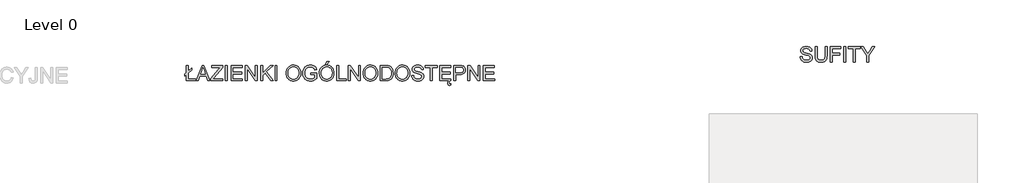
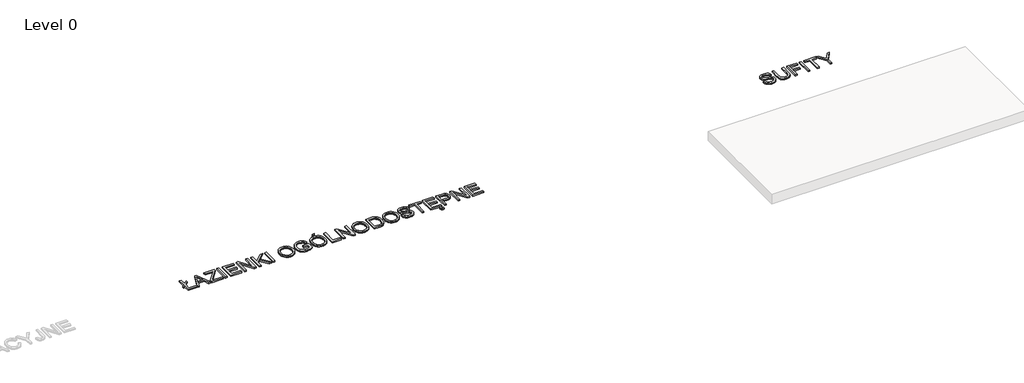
# One storey, part 4 of 4: 2 proxies.
"""IFC4 building model written with IfcOpenShell, lengths in millimetres."""

import ifcopenshell
import ifcopenshell.guid

model = None  # the IFC model being written
_history = None  # IfcOwnerHistory: only IFC2X3 demands one
_inside = {}  # id of a spatial element -> (the spatial element, [elements in it])
_under = {}  # id of a project, library or spatial element -> (it, [spatial elements below it])
_declared = {}  # id of a project -> (the project, [libraries it declares])
_typed = {}  # id of a type object -> (the type object, [elements of that type])
_made_of = {}  # id of a material, layer set ... -> (it, [elements and type objects made of it])


def new_model(schema):
    """Start an empty IFC model of exactly this schema.

    Asked for "IFC4X3", IfcOpenShell would pick the latest addendum, in which some entities
    have other attributes; the version numbers below select the first issue.
    IFC2X3 requires an IfcOwnerHistory on every rooted entity: one is made here for all.
    """
    global model, _history
    if schema == "IFC4X3":
        model = ifcopenshell.file(schema_version=(4, 3, 0, 0))
    else:
        model = ifcopenshell.file(schema=schema)
    _inside.clear()
    _under.clear()
    _declared.clear()
    _typed.clear()
    _made_of.clear()
    _history = None
    if model.schema == "IFC2X3":
        org = make("IfcOrganization", Name="unknown")
        user = make(
            "IfcPersonAndOrganization",
            ThePerson=make("IfcPerson", FamilyName="unknown"),
            TheOrganization=org,
        )
        app = make(
            "IfcApplication",
            ApplicationDeveloper=org,
            Version="unknown",
            ApplicationFullName="unknown",
            ApplicationIdentifier="unknown",
        )
        _history = make(
            "IfcOwnerHistory",
            OwningUser=user,
            OwningApplication=app,
            ChangeAction="ADDED",
            CreationDate=0,
        )
    return model


def make(cls, **values):
    """One entity of the class cls with the attributes given. An attribute that is None is left unset."""
    return model.create_entity(
        cls, **{name: value for name, value in values.items() if value is not None}
    )


def rooted(cls, **values):
    """An entity with a GlobalId (a new one), such as an element, a storey or a relation."""
    return make(cls, GlobalId=ifcopenshell.guid.new(), OwnerHistory=_history, **values)


def si_unit(unit_type, name, prefix=None):
    """IfcSIUnit, for example si_unit("LENGTHUNIT", "METRE", prefix="MILLI")."""
    return make("IfcSIUnit", UnitType=unit_type, Prefix=prefix, Name=name)


def assignment(units):
    """IfcUnitAssignment: the units of a project."""
    return None if units is None else make("IfcUnitAssignment", Units=units)


def point(xyz):
    """IfcCartesianPoint."""
    return None if xyz is None else make("IfcCartesianPoint", Coordinates=xyz)


def direction(xyz):
    """IfcDirection."""
    return None if xyz is None else make("IfcDirection", DirectionRatios=xyz)


def frame(location, z_axis=None, x_axis=None):
    """IfcAxis2Placement3D, a coordinate frame: its origin and axes. An axis left out is left unset."""
    return make(
        "IfcAxis2Placement3D",
        Location=point(location),
        Axis=direction(z_axis),
        RefDirection=direction(x_axis),
    )


def origin():
    """The frame at (0, 0, 0) with its axes left unset."""
    return frame((0.0, 0.0, 0.0))


def origin_with_axes():
    """The frame at (0, 0, 0) with the z axis (0, 0, 1) and the x axis (1, 0, 0) written out."""
    return frame((0.0, 0.0, 0.0), z_axis=(0.0, 0.0, 1.0), x_axis=(1.0, 0.0, 0.0))


def place(relative_to, where):
    """IfcLocalPlacement: puts the frame where relative to a parent placement (None: the world)."""
    return make(
        "IfcLocalPlacement", PlacementRelTo=relative_to, RelativePlacement=where
    )


def context(
    kind, dimensions, precision=None, world=None, true_north=None, identifier=None
):
    """IfcGeometricRepresentationContext, for example the 3D "Model" context."""
    return make(
        "IfcGeometricRepresentationContext",
        ContextIdentifier=identifier,
        ContextType=kind,
        CoordinateSpaceDimension=dimensions,
        Precision=precision,
        WorldCoordinateSystem=world,
        TrueNorth=true_north,
    )


def project(units=None, contexts=None):
    """IfcProject with its units and contexts."""
    return rooted(
        "IfcProject",
        Name="project",
        RepresentationContexts=contexts,
        UnitsInContext=assignment(units),
    )


def spatial(cls, under=None, at=None, **own):
    """A site, building, storey or space (cls), placed at a placement, below another one or the project."""
    s = rooted(cls, ObjectPlacement=at, **own)
    if under is not None:
        _under.setdefault(under.id(), (under, []))[1].append(s)
    return s


def polyline(points):
    """IfcPolyline through the points."""
    return make("IfcPolyline", Points=[point(p) for p in points])


def outline(outer, holes=None, kind="AREA"):
    """IfcArbitraryClosedProfileDef: a profile drawn as a closed curve; with holes, ...WithVoids."""
    if holes is None:
        return make("IfcArbitraryClosedProfileDef", ProfileType=kind, OuterCurve=outer)
    return make(
        "IfcArbitraryProfileDefWithVoids",
        ProfileType=kind,
        OuterCurve=outer,
        InnerCurves=holes,
    )


def extrude(swept, where, along, depth):
    """IfcExtrudedAreaSolid: the profile swept, set in the frame where, extruded along a direction by depth."""
    return make(
        "IfcExtrudedAreaSolid",
        SweptArea=swept,
        Position=where,
        ExtrudedDirection=direction(along),
        Depth=depth,
    )


def shape(context_of_items, identifier, shape_type, items):
    """IfcShapeRepresentation: the items that make up one representation, for example the "Body"."""
    return make(
        "IfcShapeRepresentation",
        ContextOfItems=context_of_items,
        RepresentationIdentifier=identifier,
        RepresentationType=shape_type,
        Items=items,
    )


def made_of(thing, what):
    """Note that an element or type object is made of a material, layer set ...; save() writes the relation."""
    if what is not None:
        _made_of.setdefault(what.id(), (what, []))[1].append(thing)
    return thing


def element(
    cls,
    number,
    at=None,
    inside=None,
    cuts=None,
    type_object=None,
    material=None,
    context=None,
    identifier="Body",
    shape_type=None,
    held_by="IfcProductDefinitionShape",
    body=None,
    shapes=None,
    **own,
):
    """One element of the class cls, such as IfcWall. Its Tag is "e" and its number.

    at: its placement. inside: the storey or other place that contains it. cuts: it is an
    opening in that element (IfcRelVoidsElement). A single representation is given by context,
    identifier, shape_type and body (its items); several are given by shapes. held_by: the class
    of the entity that holds the representations. save() writes the other relations.
    """
    e = rooted(cls, Tag="e%d" % number, ObjectPlacement=at, **own)
    if body is not None:
        shapes = [shape(context, identifier, shape_type, body)]
    if shapes is not None:
        e.Representation = make(held_by, Representations=shapes)
    if inside is not None:
        _inside.setdefault(inside.id(), (inside, []))[1].append(e)
    if cuts is not None:
        rooted(
            "IfcRelVoidsElement", RelatingBuildingElement=cuts, RelatedOpeningElement=e
        )
    if type_object is not None:
        _typed.setdefault(type_object.id(), (type_object, []))[1].append(e)
    return made_of(e, material)


def aggregate(whole, parts):
    """IfcRelAggregates: a whole, such as a stair, and the parts it consists of."""
    return rooted("IfcRelAggregates", RelatingObject=whole, RelatedObjects=parts)


def save(model, path):
    """Write the relations noted so far, then the file.

    IfcRelAggregates (storeys below a building ...), IfcRelContainedInSpatialStructure (elements
    in a storey), IfcRelDefinesByType, IfcRelAssociatesMaterial and IfcRelDeclares: one each for
    every whole, place, type object, material and project.
    """
    for whole, parts in _under.values():
        aggregate(whole, parts)
    for where, things in _inside.values():
        rooted(
            "IfcRelContainedInSpatialStructure",
            RelatedElements=things,
            RelatingStructure=where,
        )
    for kind, things in _typed.values():
        rooted("IfcRelDefinesByType", RelatedObjects=things, RelatingType=kind)
    for what, things in _made_of.values():
        rooted("IfcRelAssociatesMaterial", RelatedObjects=things, RelatingMaterial=what)
    for by, libraries in _declared.values():
        rooted("IfcRelDeclares", RelatingContext=by, RelatedDefinitions=libraries)
    model.write(path)


model = new_model("IFC4")

# Units and contexts
model_context = context("Model", 3, world=origin())
ifc_project = project(units=[si_unit("LENGTHUNIT", "METRE", prefix="MILLI")], contexts=[model_context])

# Site, building, storey
site = spatial("IfcSite", under=ifc_project)
building = spatial("IfcBuilding", under=site)
storey = spatial("IfcBuildingStorey", under=building, Name="Level 0", Elevation=0.0)

# Proxies
placement = place(None, origin())
element("IfcBuildingElementProxy", 1, Name="600mm Arial", ObjectType="600mm Arial", at=placement, inside=storey, context=model_context, shape_type="SweptSolid", body=[
    extrude(outline(polyline([(121845.6074973, 14612.3905691), (121779.6830438, 14557.5025754), (121779.6830438, 14632.844808), (121845.6074973, 14687.7328017), (121845.6074973, 14976.5937443), (121920.94973, 14976.5937443), (121920.94973, 14750.5670465), (122062.2164161, 14868.2892849), (122062.2164161, 14792.9470523), (121920.94973, 14675.2248138), (121920.94973, 14449.198116), (122222.3186604, 14449.198116), (122222.3186604, 14373.8558834), (121845.6074973, 14373.8558834), (121845.6074973, 14612.3905691)])), origin_with_axes(), (0.0, 0.0, 1.0), 50.0),
    extrude(outline(polyline([(122227.4690083, 14373.8558834), (122468.0638332, 14976.5937443), (122532.2224531, 14976.5937443), (122772.817278, 14373.8558834), (122693.2076142, 14373.8558834), (122624.1929519, 14562.2114649), (122375.9461816, 14562.2114649), (122307.0786721, 14373.8558834), (122227.4690083, 14373.8558834)]), holes=[polyline([(122403.6109076, 14637.5536975), (122596.6753787, 14637.5536975), (122542.3759962, 14785.7365652), (122500.1431432, 14901.2515117), (122462.6191797, 14798.6860114), (122403.6109076, 14637.5536975)])]), origin_with_axes(), (0.0, 0.0, 1.0), 50.0),
    extrude(outline(polyline([(122806.2209632, 14373.8558834), (122806.2209632, 14451.9940192), (123114.5060751, 14829.4409462), (123173.0728887, 14901.2515117), (122843.8920795, 14901.2515117), (122843.8920795, 14976.5937443), (123267.6921379, 14976.5937443), (123267.6921379, 14901.2515117), (122930.2707719, 14488.1936075), (122898.4857675, 14449.198116), (123277.109917, 14449.198116), (123277.109917, 14373.8558834), (122806.2209632, 14373.8558834)])), origin_with_axes(), (0.0, 0.0, 1.0), 50.0),
    extrude(outline(polyline([(123371.2877077, 14373.8558834), (123371.2877077, 14976.5937443), (123446.6299404, 14976.5937443), (123446.6299404, 14373.8558834), (123371.2877077, 14373.8558834)])), origin_with_axes(), (0.0, 0.0, 1.0), 50.0),
    extrude(outline(polyline([(123597.3144056, 14373.8558834), (123597.3144056, 14976.5937443), (124030.5322431, 14976.5937443), (124030.5322431, 14901.2515117), (123672.6566382, 14901.2515117), (123672.6566382, 14722.3137092), (124011.6966849, 14722.3137092), (124011.6966849, 14646.9714766), (123672.6566382, 14646.9714766), (123672.6566382, 14449.198116), (124039.9500222, 14449.198116), (124039.9500222, 14373.8558834), (123597.3144056, 14373.8558834)])), origin_with_axes(), (0.0, 0.0, 1.0), 50.0),
    extrude(outline(polyline([(124152.9633711, 14373.8558834), (124152.9633711, 14976.5937443), (124233.6031044, 14976.5937443), (124548.5100923, 14499.0829146), (124548.5100923, 14976.5937443), (124623.8523249, 14976.5937443), (124623.8523249, 14373.8558834), (124543.2125916, 14373.8558834), (124228.3056037, 14851.5138659), (124228.3056037, 14373.8558834), (124152.9633711, 14373.8558834)])), origin_with_axes(), (0.0, 0.0, 1.0), 50.0),
    extrude(outline(polyline([(124755.701232, 14373.8558834), (124755.701232, 14976.5937443), (124831.0434646, 14976.5937443), (124831.0434646, 14681.5523842), (125140.0643406, 14976.5937443), (125245.425744, 14976.5937443), (124985.995361, 14728.7884323), (125254.8435231, 14373.8558834), (125162.7258715, 14373.8558834), (124932.5788953, 14677.8735642), (124831.0434646, 14581.0470231), (124831.0434646, 14373.8558834), (124755.701232, 14373.8558834)])), origin_with_axes(), (0.0, 0.0, 1.0), 50.0),
    extrude(outline(polyline([(125320.7679766, 14373.8558834), (125320.7679766, 14976.5937443), (125396.1102092, 14976.5937443), (125396.1102092, 14373.8558834), (125320.7679766, 14373.8558834)])), origin_with_axes(), (0.0, 0.0, 1.0), 50.0),
    extrude(outline(polyline([(125753.9858141, 14667.2785627), (125759.0074033, 14737.9762852), (125774.072171, 14800.5622096), (125799.1801172, 14855.036336), (125815.5002822, 14879.231475), (125834.3312419, 14901.3986645), (125877.4194205, 14938.4167902), (125926.3385288, 14964.8583086), (125981.0885668, 14980.7232197), (126041.6695343, 14986.0115234), (126082.2193273, 14983.5283199), (126120.7273751, 14976.0787095), (126157.1936779, 14963.6626922), (126191.6182356, 14946.2802679), (126223.035358, 14924.4556685), (126250.4793548, 14898.7131259), (126273.9502261, 14869.0526401), (126293.4479718, 14835.4742109), (126308.7702569, 14798.7411937), (126319.7147463, 14759.6169435), (126326.2814399, 14718.1014604), (126328.4703378, 14674.1947443), (126326.1664768, 14629.708614), (126319.2548938, 14587.6321108), (126307.7355888, 14547.9652347), (126291.6085619, 14510.7079856), (126271.2554905, 14476.8444479), (126247.0580522, 14447.358706), (126219.0162472, 14422.2507599), (126187.1300752, 14401.5206094), (126152.6549338, 14385.2970134), (126116.84622, 14373.7087306), (126079.7039341, 14366.7557609), (126041.2280759, 14364.4381043), (125999.9701102, 14366.9994827), (125960.9562246, 14374.6836179), (125924.1864192, 14387.4905098), (125889.6606939, 14405.4201586), (125858.2803597, 14427.7781868), (125830.9467275, 14453.8702173), (125807.6597972, 14483.6962501), (125788.4195689, 14517.2562851), (125773.3548012, 14553.2029546), (125762.5942528, 14590.1888907), (125756.1379238, 14628.2140934), (125753.9858141, 14667.2785627)]), holes=[polyline([(125829.3280467, 14666.5427988), (125833.0942386, 14616.5936209), (125844.3928144, 14572.2546434), (125863.223774, 14533.5258664), (125889.5871175, 14500.4072897), (125921.6342378, 14473.8829979), (125957.5165279, 14454.9370751), (125997.2339878, 14443.5695215), (126040.7866175, 14439.7803369), (126085.0842083, 14443.6063097), (126125.2707177, 14455.0842279), (126161.3461459, 14474.2140917), (126193.3104927, 14500.9959009), (126219.4806982, 14534.8134533), (126238.1737021, 14575.0505466), (126249.3895044, 14621.7071806), (126253.1281052, 14674.7833555), (126251.5278185, 14709.2630954), (126246.7269584, 14741.4803612), (126238.7255251, 14771.4351526), (126227.5235183, 14799.1274698), (126213.2450984, 14824.1940293), (126196.0144254, 14846.2715475), (126175.8314995, 14865.3600245), (126152.6963205, 14881.4594603), (126127.3262584, 14894.2387611), (126100.4386831, 14903.3668332), (126072.0335945, 14908.8436764), (126042.1109927, 14910.6692908), (126000.0712777, 14907.1514192), (125961.0665892, 14896.5978044), (125925.0969271, 14879.0084465), (125892.1622915, 14854.3833455), (125864.6723094, 14821.5360819), (125845.0366079, 14779.2802362), (125833.255187, 14727.6158085), (125829.3280467, 14666.5427988)])]), origin_with_axes(), (0.0, 0.0, 1.0), 50.0),
    extrude(outline(polyline([(126714.5992799, 14609.3003603), (126714.5992799, 14684.6425929), (126959.4615359, 14684.6425929), (126959.4615359, 14459.3516591), (126899.9566232, 14417.9649346), (126838.5755123, 14388.2768576), (126775.465356, 14370.3977926), (126710.7733072, 14364.4381043), (126667.496589, 14366.8063447), (126626.2524188, 14373.9110657), (126587.0407966, 14385.7522674), (126549.8617225, 14402.3299498), (126515.9154114, 14423.3957926), (126486.4020783, 14448.7014753), (126461.3217233, 14478.2469981), (126440.6743463, 14512.0323608), (126424.5473193, 14548.9769102), (126413.0280144, 14587.9999928), (126406.1164314, 14629.1016087), (126403.8125704, 14672.2817579), (126406.1072343, 14715.4665056), (126412.9912262, 14757.1705283), (126424.4645459, 14797.3938259), (126440.5271935, 14836.1363985), (126460.8940605, 14871.6967919), (126485.2800382, 14902.3735518), (126513.6851268, 14928.1666782), (126546.1093261, 14949.0761711), (126581.849062, 14965.2353877), (126620.2007599, 14976.7776853), (126661.1644201, 14983.7030639), (126704.7400424, 14986.0115234), (126766.801735, 14980.6588403), (126822.6094337, 14964.6007913), (126847.5288403, 14952.8469615), (126869.6063586, 14938.9962044), (126888.8419884, 14923.0485199), (126905.2357298, 14905.003908), (126931.5944748, 14860.9868273), (126950.7795208, 14805.3078873), (126881.3234001, 14785.7365652), (126865.817174, 14825.4494266), (126846.9632218, 14855.4134151), (126822.0208225, 14878.0013696), (126788.2492553, 14895.586129), (126747.984571, 14906.8985003), (126703.5628201, 14910.6692908), (126651.5627, 14906.6041947), (126607.1041609, 14894.4089066), (126570.3527496, 14875.6101366), (126541.474013, 14851.7345951), (126519.3091228, 14824.0146868), (126502.6992507, 14793.6828163), (126485.0409149, 14736.8082598), (126479.154803, 14675.3719666), (126480.9252351, 14637.7514341), (126486.2365314, 14603.3222779), (126495.0886919, 14572.084498), (126507.4817166, 14544.0380944), (126523.2546572, 14519.2888331), (126542.2465652, 14497.9424804), (126564.4574406, 14479.9990361), (126589.8872835, 14465.4585002), (126617.345076, 14454.2243038), (126645.6397999, 14446.1998777), (126674.7714554, 14441.3852221), (126704.7400424, 14439.7803369), (126756.9241035, 14444.6179852), (126807.8205775, 14459.1309299), (126852.0215992, 14479.1253163), (126884.1193033, 14500.4072897), (126884.1193033, 14609.3003603), (126714.5992799, 14609.3003603)])), origin_with_axes(), (0.0, 0.0, 1.0), 50.0),
    extrude(outline(polyline([(127053.6393267, 14667.2785627), (127058.6609159, 14737.9762852), (127073.7256836, 14800.5622096), (127098.8336298, 14855.036336), (127115.1537948, 14879.231475), (127133.9847544, 14901.3986645), (127177.0729331, 14938.4167902), (127225.9920414, 14964.8583086), (127280.7420793, 14980.7232197), (127341.3230469, 14986.0115234), (127381.8728398, 14983.5283199), (127420.3808877, 14976.0787095), (127456.8471904, 14963.6626922), (127491.2717481, 14946.2802679), (127522.6888705, 14924.4556685), (127550.1328674, 14898.7131259), (127573.6037387, 14869.0526401), (127593.1014844, 14835.4742109), (127608.4237695, 14798.7411937), (127619.3682589, 14759.6169435), (127625.9349525, 14718.1014604), (127628.1238503, 14674.1947443), (127625.8199893, 14629.708614), (127618.9084064, 14587.6321108), (127607.3891014, 14547.9652347), (127591.2620744, 14510.7079856), (127570.909003, 14476.8444479), (127546.7115648, 14447.358706), (127518.6697597, 14422.2507599), (127486.7835878, 14401.5206094), (127452.3084463, 14385.2970134), (127416.4997326, 14373.7087306), (127379.3574467, 14366.7557609), (127340.8815885, 14364.4381043), (127299.6236227, 14366.9994827), (127260.6097372, 14374.6836179), (127223.8399317, 14387.4905098), (127189.3142065, 14405.4201586), (127157.9338723, 14427.7781868), (127130.6002401, 14453.8702173), (127107.3133098, 14483.6962501), (127088.0730814, 14517.2562851), (127073.0083137, 14553.2029546), (127062.2477654, 14590.1888907), (127055.7914363, 14628.2140934), (127053.6393267, 14667.2785627)]), holes=[polyline([(127128.9815593, 14666.5427988), (127132.7477512, 14616.5936209), (127144.046327, 14572.2546434), (127162.8772866, 14533.5258664), (127189.2406301, 14500.4072897), (127221.2877504, 14473.8829979), (127257.1700405, 14454.9370751), (127296.8875004, 14443.5695215), (127340.4401301, 14439.7803369), (127384.7377209, 14443.6063097), (127424.9242303, 14455.0842279), (127460.9996585, 14474.2140917), (127492.9640053, 14500.9959009), (127519.1342107, 14534.8134533), (127537.8272146, 14575.0505466), (127549.0430169, 14621.7071806), (127552.7816177, 14674.7833555), (127551.181331, 14709.2630954), (127546.380471, 14741.4803612), (127538.3790376, 14771.4351526), (127527.1770309, 14799.1274698), (127512.8986109, 14824.1940293), (127495.667938, 14846.2715475), (127475.485012, 14865.3600245), (127452.349833, 14881.4594603), (127426.9797709, 14894.2387611), (127400.0921956, 14903.3668332), (127371.6871071, 14908.8436764), (127341.7645053, 14910.6692908), (127299.7247903, 14907.1514192), (127260.7201018, 14896.5978044), (127224.7504397, 14879.0084465), (127191.8158041, 14854.3833455), (127164.325822, 14821.5360819), (127144.6901205, 14779.2802362), (127132.9086996, 14727.6158085), (127128.9815593, 14666.5427988)])]), origin_with_axes(), (0.0, 0.0, 1.0), 50.0),
    extrude(outline(polyline([(127289.0838036, 15014.2648606), (127345.590478, 15127.2782095), (127439.7682688, 15127.2782095), (127345.590478, 15014.2648606), (127289.0838036, 15014.2648606)])), origin_with_axes(), (0.0, 0.0, 1.0), 50.0),
    extrude(outline(polyline([(127731.7194202, 14373.8558834), (127731.7194202, 14976.5937443), (127807.0616528, 14976.5937443), (127807.0616528, 14449.198116), (128108.4305832, 14449.198116), (128108.4305832, 14373.8558834), (127731.7194202, 14373.8558834)])), origin_with_axes(), (0.0, 0.0, 1.0), 50.0),
    extrude(outline(polyline([(128193.1905949, 14373.8558834), (128193.1905949, 14976.5937443), (128273.8303283, 14976.5937443), (128588.7373161, 14499.0829146), (128588.7373161, 14976.5937443), (128664.0795488, 14976.5937443), (128664.0795488, 14373.8558834), (128583.4398154, 14373.8558834), (128268.5328275, 14851.5138659), (128268.5328275, 14373.8558834), (128193.1905949, 14373.8558834)])), origin_with_axes(), (0.0, 0.0, 1.0), 50.0),
    extrude(outline(polyline([(128767.6751186, 14667.2785627), (128772.6967078, 14737.9762852), (128787.7614755, 14800.5622096), (128812.8694217, 14855.036336), (128829.1895867, 14879.231475), (128848.0205463, 14901.3986645), (128891.108725, 14938.4167902), (128940.0278333, 14964.8583086), (128994.7778713, 14980.7232197), (129055.3588388, 14986.0115234), (129095.9086317, 14983.5283199), (129134.4166796, 14976.0787095), (129170.8829824, 14963.6626922), (129205.3075401, 14946.2802679), (129236.7246624, 14924.4556685), (129264.1686593, 14898.7131259), (129287.6395306, 14869.0526401), (129307.1372763, 14835.4742109), (129322.4595614, 14798.7411937), (129333.4040508, 14759.6169435), (129339.9707444, 14718.1014604), (129342.1596423, 14674.1947443), (129339.8557813, 14629.708614), (129332.9441983, 14587.6321108), (129321.4248933, 14547.9652347), (129305.2978663, 14510.7079856), (129284.944795, 14476.8444479), (129260.7473567, 14447.358706), (129232.7055516, 14422.2507599), (129200.8193797, 14401.5206094), (129166.3442382, 14385.2970134), (129130.5355245, 14373.7087306), (129093.3932386, 14366.7557609), (129054.9173804, 14364.4381043), (129013.6594147, 14366.9994827), (128974.6455291, 14374.6836179), (128937.8757237, 14387.4905098), (128903.3499984, 14405.4201586), (128871.9696642, 14427.7781868), (128844.636032, 14453.8702173), (128821.3491017, 14483.6962501), (128802.1088733, 14517.2562851), (128787.0441056, 14553.2029546), (128776.2835573, 14590.1888907), (128769.8272283, 14628.2140934), (128767.6751186, 14667.2785627)]), holes=[polyline([(128843.0173512, 14666.5427988), (128846.7835431, 14616.5936209), (128858.0821189, 14572.2546434), (128876.9130785, 14533.5258664), (128903.276422, 14500.4072897), (128935.3235423, 14473.8829979), (128971.2058324, 14454.9370751), (129010.9232923, 14443.5695215), (129054.475922, 14439.7803369), (129098.7735128, 14443.6063097), (129138.9600222, 14455.0842279), (129175.0354504, 14474.2140917), (129206.9997972, 14500.9959009), (129233.1700027, 14534.8134533), (129251.8630065, 14575.0505466), (129263.0788089, 14621.7071806), (129266.8174097, 14674.7833555), (129265.217123, 14709.2630954), (129260.4162629, 14741.4803612), (129252.4148295, 14771.4351526), (129241.2128228, 14799.1274698), (129226.9344028, 14824.1940293), (129209.7037299, 14846.2715475), (129189.5208039, 14865.3600245), (129166.385625, 14881.4594603), (129141.0155629, 14894.2387611), (129114.1279876, 14903.3668332), (129085.722899, 14908.8436764), (129055.8002972, 14910.6692908), (129013.7605822, 14907.1514192), (128974.7558937, 14896.5978044), (128938.7862316, 14879.0084465), (128905.851596, 14854.3833455), (128878.3616139, 14821.5360819), (128858.7259124, 14779.2802362), (128846.9444915, 14727.6158085), (128843.0173512, 14666.5427988)])]), origin_with_axes(), (0.0, 0.0, 1.0), 50.0),
    extrude(outline(polyline([(129445.7552121, 14373.8558834), (129445.7552121, 14976.5937443), (129653.6821158, 14976.5937443), (129715.8173848, 14974.4232405), (129761.2508112, 14967.9117292), (129809.2961997, 14951.1730984), (129849.8367956, 14924.7959594), (129872.1764298, 14903.2380745), (129891.5178257, 14878.8842864), (129907.8609833, 14851.7345951), (129921.2059027, 14821.7890007), (129931.5709779, 14789.3234146), (129938.974603, 14754.6137484), (129944.8975032, 14678.4621754), (129940.8875894, 14613.7701266), (129928.8578482, 14556.8403878), (129910.5373248, 14508.3719349), (129887.6550647, 14469.0637437), (129861.3147139, 14438.0328975), (129832.6199182, 14414.3964793), (129799.6760856, 14396.8669022), (129760.5886236, 14384.1565793), (129715.2839559, 14376.4310574), (129663.688506, 14373.8558834), (129445.7552121, 14373.8558834)]), holes=[polyline([(129521.0974447, 14449.198116), (129654.4178798, 14449.198116), (129709.5633908, 14451.9204428), (129751.3915737, 14460.0874231), (129782.9558489, 14473.2208103), (129807.309637, 14490.8423579), (129833.4844409, 14523.4550967), (129853.1477336, 14565.6695557), (129865.4533863, 14617.6696757), (129869.5552705, 14679.6393978), (129867.5457151, 14723.380567), (129861.517049, 14761.7506591), (129851.469272, 14794.7496741), (129837.4023842, 14822.3776119), (129820.4568198, 14845.259872), (129801.7730129, 14864.0218538), (129781.3509637, 14878.6635572), (129759.190672, 14889.1849822), (129715.854173, 14898.2348793), (129652.3577406, 14901.2515117), (129521.0974447, 14901.2515117), (129521.0974447, 14449.198116)])]), origin_with_axes(), (0.0, 0.0, 1.0), 50.0),
    extrude(outline(polyline([(130020.2397358, 14667.2785627), (130025.261325, 14737.9762852), (130040.3260927, 14800.5622096), (130065.4340389, 14855.036336), (130081.7542039, 14879.231475), (130100.5851635, 14901.3986645), (130143.6733422, 14938.4167902), (130192.5924505, 14964.8583086), (130247.3424884, 14980.7232197), (130307.923456, 14986.0115234), (130348.4732489, 14983.5283199), (130386.9812968, 14976.0787095), (130423.4475995, 14963.6626922), (130457.8721572, 14946.2802679), (130489.2892796, 14924.4556685), (130516.7332765, 14898.7131259), (130540.2041478, 14869.0526401), (130559.7018935, 14835.4742109), (130575.0241786, 14798.7411937), (130585.968668, 14759.6169435), (130592.5353616, 14718.1014604), (130594.7242594, 14674.1947443), (130592.4203984, 14629.708614), (130585.5088155, 14587.6321108), (130573.9895105, 14547.9652347), (130557.8624835, 14510.7079856), (130537.5094121, 14476.8444479), (130513.3119739, 14447.358706), (130485.2701688, 14422.2507599), (130453.3839969, 14401.5206094), (130418.9088554, 14385.2970134), (130383.1001417, 14373.7087306), (130345.9578558, 14366.7557609), (130307.4819976, 14364.4381043), (130266.2240318, 14366.9994827), (130227.2101463, 14374.6836179), (130190.4403408, 14387.4905098), (130155.9146156, 14405.4201586), (130124.5342814, 14427.7781868), (130097.2006492, 14453.8702173), (130073.9137189, 14483.6962501), (130054.6734905, 14517.2562851), (130039.6087228, 14553.2029546), (130028.8481745, 14590.1888907), (130022.3918454, 14628.2140934), (130020.2397358, 14667.2785627)]), holes=[polyline([(130095.5819684, 14666.5427988), (130099.3481603, 14616.5936209), (130110.6467361, 14572.2546434), (130129.4776957, 14533.5258664), (130155.8410392, 14500.4072897), (130187.8881595, 14473.8829979), (130223.7704496, 14454.9370751), (130263.4879095, 14443.5695215), (130307.0405392, 14439.7803369), (130351.33813, 14443.6063097), (130391.5246394, 14455.0842279), (130427.6000676, 14474.2140917), (130459.5644144, 14500.9959009), (130485.7346198, 14534.8134533), (130504.4276237, 14575.0505466), (130515.6434261, 14621.7071806), (130519.3820268, 14674.7833555), (130517.7817401, 14709.2630954), (130512.9808801, 14741.4803612), (130504.9794467, 14771.4351526), (130493.77744, 14799.1274698), (130479.49902, 14824.1940293), (130462.2683471, 14846.2715475), (130442.0854211, 14865.3600245), (130418.9502421, 14881.4594603), (130393.5801801, 14894.2387611), (130366.6926047, 14903.3668332), (130338.2875162, 14908.8436764), (130308.3649144, 14910.6692908), (130266.3251994, 14907.1514192), (130227.3205109, 14896.5978044), (130191.3508488, 14879.0084465), (130158.4162132, 14854.3833455), (130130.9262311, 14821.5360819), (130111.2905296, 14779.2802362), (130099.5091087, 14727.6158085), (130095.5819684, 14666.5427988)])]), origin_with_axes(), (0.0, 0.0, 1.0), 50.0),
    extrude(outline(polyline([(130670.0664921, 14581.0470231), (130745.4087247, 14581.0470231), (130754.0539516, 14539.2372343), (130769.6889363, 14505.6312141), (130794.0795126, 14478.9597694), (130828.991514, 14457.9537075), (130871.6658254, 14444.3236796), (130919.343332, 14439.7803369), (130961.3186676, 14443.2200336), (130998.070079, 14453.5391236), (131027.8501265, 14469.8730841), (131048.9113707, 14491.3573927), (131061.4377526, 14516.0238804), (131065.6132133, 14541.9043788), (131062.4862163, 14567.1226896), (131053.1052254, 14588.9196978), (131034.0489381, 14607.5161326), (131001.8960517, 14623.1327233), (130892.1936407, 14651.9010954), (130820.1807402, 14670.9389886), (130774.1035203, 14689.0571769), (130736.5979509, 14714.4042463), (130710.0184767, 14745.1223929), (130694.1811568, 14780.5494291), (130688.9020502, 14820.0231671), (130690.5345266, 14842.4593703), (130695.4319556, 14864.1506125), (130703.5943374, 14885.0968936), (130715.0216719, 14905.2982136), (130729.5852003, 14923.9314367), (130747.1561641, 14940.1734268), (130767.7345632, 14954.0241839), (130791.3203977, 14965.483708), (130844.3321932, 14980.8795695), (130903.0093714, 14986.0115234), (130966.5793802, 14980.6404462), (131022.2031378, 14964.5272149), (131046.5385318, 14952.5250648), (131067.8940816, 14938.002923), (131086.2697873, 14920.9607896), (131101.6656488, 14901.3986645), (131113.9621045, 14879.8867648), (131123.0395927, 14856.9953077), (131128.8981135, 14832.724293), (131131.5376668, 14807.0737209), (131056.1954342, 14807.0737209), (131051.1554509, 14831.1148093), (131042.3630712, 14852.0289007), (131029.8182951, 14869.8159952), (131013.5211228, 14884.4760927), (130993.1680514, 14895.9356169), (130968.4555783, 14904.1209912), (130939.3837037, 14909.0322159), (130905.9524274, 14910.6692908), (130871.4542933, 14909.05061), (130841.9777484, 14904.1945676), (130817.5227928, 14896.1011637), (130798.0894264, 14884.7703983), (130783.2821761, 14871.1495674), (130772.7055687, 14856.1859673), (130766.3596043, 14839.8795978), (130764.2442828, 14822.2304591), (130765.7434019, 14807.0461298), (130770.2407593, 14793.2781461), (130777.736355, 14780.9265081), (130788.2301889, 14769.9912158), (130804.7480905, 14759.6353376), (130830.7573475, 14749.1690949), (130911.2499281, 14727.9055156), (130994.3176826, 14707.708794), (131044.5703631, 14690.0872465), (131087.5205861, 14662.7536142), (131104.1258596, 14646.6863681), (131117.4845746, 14629.0188353), (131127.7530808, 14609.8429863), (131135.0877281, 14589.2507916), (131140.9554459, 14543.8173652), (131139.2677872, 14520.2499249), (131134.2048113, 14497.3722633), (131125.766518, 14475.1843804), (131113.9529074, 14453.6862763), (131098.9709132, 14433.710284), (131081.0274689, 14416.0887364), (131060.1225745, 14400.8216336), (131036.2562301, 14387.9089756), (131010.1228128, 14377.6404694), (130982.4167001, 14370.3058221), (130922.2863879, 14364.4381043), (130883.7461504, 14366.0199969), (130848.4708656, 14370.7656746), (130816.4605335, 14378.6751375), (130787.7151541, 14389.7483856), (130762.0599835, 14404.0038129), (130739.3202776, 14421.4598136), (130719.4960366, 14442.1163876), (130702.5872604, 14465.973535), (130688.9664296, 14492.2587035), (130679.0060245, 14520.1993411), (130672.7060454, 14549.7954476), (130670.0664921, 14581.0470231)])), origin_with_axes(), (0.0, 0.0, 1.0), 50.0),
    extrude(outline(polyline([(131404.65326, 14373.8558834), (131404.65326, 14901.2515117), (131206.8798994, 14901.2515117), (131206.8798994, 14976.5937443), (131677.7688532, 14976.5937443), (131677.7688532, 14901.2515117), (131479.9954926, 14901.2515117), (131479.9954926, 14373.8558834), (131404.65326, 14373.8558834)])), origin_with_axes(), (0.0, 0.0, 1.0), 50.0),
    extrude(outline(polyline([(131762.5288649, 14976.5937443), (132195.7467025, 14976.5937443), (132195.7467025, 14901.2515117), (131837.8710975, 14901.2515117), (131837.8710975, 14722.3137092), (132176.9111443, 14722.3137092), (132176.9111443, 14646.9714766), (131837.8710975, 14646.9714766), (131837.8710975, 14449.198116), (132205.1644815, 14449.198116), (132205.1644815, 14373.8558834), (132178.9712835, 14373.8558834), (132158.2043448, 14357.3931641), (132142.6981187, 14337.4355659), (132133.0412164, 14315.6017695), (132129.8222489, 14293.5104557), (132132.1215114, 14277.2132833), (132139.0192988, 14263.6384376), (132151.0674341, 14254.478176), (132168.8177404, 14251.4247554), (132187.6532986, 14254.0735058), (132205.1644815, 14261.1368401), (132205.1644815, 14209.1919024), (132177.7572729, 14198.4865363), (132152.336627, 14194.9180809), (132133.7401922, 14196.4263971), (132117.6821431, 14200.9513457), (132104.1072975, 14208.1250446), (132092.960473, 14217.5796118), (132078.1716168, 14241.9333999), (132073.3155745, 14271.4375359), (132076.9943944, 14298.1273747), (132088.0308543, 14324.927578), (132105.7995546, 14350.5873472), (132129.6750961, 14373.8558834), (131762.5288649, 14373.8558834), (131762.5288649, 14976.5937443)])), origin_with_axes(), (0.0, 0.0, 1.0), 50.0),
    extrude(outline(polyline([(132318.1778304, 14373.8558834), (132318.1778304, 14976.5937443), (132541.5557779, 14976.5937443), (132593.574292, 14975.1590045), (132631.6132903, 14970.8547852), (132671.7676101, 14960.131025), (132704.8218074, 14942.6750243), (132731.4380697, 14917.6958369), (132752.2785848, 14884.4025163), (132765.7430658, 14845.1311133), (132770.2312261, 14802.2176786), (132767.2007982, 14765.2179469), (132758.1095144, 14731.1796653), (132742.9573747, 14700.1028338), (132721.7443792, 14671.9874523), (132692.6219207, 14648.6821279), (132653.7413923, 14632.0354676), (132605.1027941, 14622.0474714), (132546.7061258, 14618.7181394), (132393.5200631, 14618.7181394), (132393.5200631, 14373.8558834), (132318.1778304, 14373.8558834)]), holes=[polyline([(132393.5200631, 14694.060372), (132551.1207098, 14694.060372), (132587.3570863, 14695.7894174), (132617.9280801, 14700.9765535), (132642.8336912, 14709.6217804), (132662.0739195, 14721.725098), (132676.4305144, 14736.9646097), (132686.685225, 14755.0184186), (132692.8380514, 14775.8865248), (132694.8889935, 14799.5689282), (132690.0513453, 14833.4140718), (132675.5384006, 14861.9617146), (132653.1527812, 14883.4460231), (132624.6971088, 14896.1011637), (132595.6344312, 14899.9639247), (132549.3548762, 14901.2515117), (132393.5200631, 14901.2515117), (132393.5200631, 14694.060372)])]), origin_with_axes(), (0.0, 0.0, 1.0), 50.0),
    extrude(outline(polyline([(132873.826796, 14373.8558834), (132873.826796, 14976.5937443), (132954.4665293, 14976.5937443), (133269.3735172, 14499.0829146), (133269.3735172, 14976.5937443), (133344.7157498, 14976.5937443), (133344.7157498, 14373.8558834), (133264.0760164, 14373.8558834), (132949.1690286, 14851.5138659), (132949.1690286, 14373.8558834), (132873.826796, 14373.8558834)])), origin_with_axes(), (0.0, 0.0, 1.0), 50.0),
    extrude(outline(polyline([(133476.5646569, 14373.8558834), (133476.5646569, 14976.5937443), (133909.7824944, 14976.5937443), (133909.7824944, 14901.2515117), (133551.9068895, 14901.2515117), (133551.9068895, 14722.3137092), (133890.9469362, 14722.3137092), (133890.9469362, 14646.9714766), (133551.9068895, 14646.9714766), (133551.9068895, 14449.198116), (133919.2002735, 14449.198116), (133919.2002735, 14373.8558834), (133476.5646569, 14373.8558834)])), origin_with_axes(), (0.0, 0.0, 1.0), 50.0),
])
element("IfcBuildingElementProxy", 2, Name="600mm Arial", ObjectType="600mm Arial", at=placement, inside=storey, context=model_context, shape_type="SweptSolid", body=[
    extrude(outline(polyline([(145879.0352509, 15316.8214025), (145954.3774835, 15316.8214025), (145963.0227104, 15275.0116137), (145978.6576952, 15241.4055935), (146003.0482714, 15214.7341488), (146037.9602728, 15193.7280869), (146080.6345842, 15180.098059), (146128.3120908, 15175.5547163), (146170.2874264, 15178.994413), (146207.0388378, 15189.3135029), (146236.8188853, 15205.6474635), (146257.8801295, 15227.131772), (146270.4065114, 15251.7982598), (146274.5819721, 15277.6787582), (146271.4549751, 15302.8970689), (146262.0739842, 15324.6940772), (146243.0176969, 15343.290512), (146210.8648105, 15358.9071027), (146101.1623996, 15387.6754747), (146029.149499, 15406.713368), (145983.0722791, 15424.8315562), (145945.5667097, 15450.1786257), (145918.9872355, 15480.8967723), (145903.1499157, 15516.3238084), (145897.870809, 15555.7975465), (145899.5032854, 15578.2337497), (145904.4007144, 15599.9249919), (145912.5630962, 15620.871273), (145923.9904307, 15641.072593), (145938.5539592, 15659.7058161), (145956.124923, 15675.9478062), (145976.7033221, 15689.7985633), (146000.2891565, 15701.2580874), (146053.300952, 15716.6539489), (146111.9781302, 15721.7859028), (146175.548139, 15716.4148256), (146231.1718967, 15700.3015942), (146255.5072906, 15688.2994441), (146276.8628405, 15673.7773024), (146295.2385461, 15656.735169), (146310.6344076, 15637.1730439), (146322.9308633, 15615.6611442), (146332.0083515, 15592.769687), (146337.8668723, 15568.4986724), (146340.5064256, 15542.8481003), (146265.164193, 15542.8481003), (146260.1242097, 15566.8891887), (146251.33183, 15587.8032801), (146238.787054, 15605.5903746), (146222.4898816, 15620.2504721), (146202.1368102, 15631.7099962), (146177.4243372, 15639.8953706), (146148.3524625, 15644.8065953), (146114.9211862, 15646.4436701), (146080.4230521, 15644.8249894), (146050.9465072, 15639.968947), (146026.4915516, 15631.8755431), (146007.0581852, 15620.5447777), (145992.2509349, 15606.9239468), (145981.6743275, 15591.9603467), (145975.3283631, 15575.6539772), (145973.2130416, 15558.0048385), (145974.7121608, 15542.8205091), (145979.2095182, 15529.0525255), (145986.7051138, 15516.7008875), (145997.1989477, 15505.7655952), (146013.7168493, 15495.409717), (146039.7261064, 15484.9434743), (146120.2186869, 15463.6798949), (146203.2864414, 15443.4831734), (146253.539122, 15425.8616258), (146296.4893449, 15398.5279936), (146313.0946185, 15382.4607475), (146326.4533334, 15364.7932146), (146336.7218396, 15345.6173656), (146344.0564869, 15325.025171), (146349.9242047, 15279.5917446), (146348.236546, 15256.0243042), (146343.1735701, 15233.1466427), (146334.7352768, 15210.9587598), (146322.9216662, 15189.4606557), (146307.939672, 15169.4846634), (146289.9962277, 15151.8631158), (146269.0913333, 15136.596013), (146245.2249889, 15123.683355), (146219.0915716, 15113.4148488), (146191.3854589, 15106.0802015), (146131.2551468, 15100.2124837), (146092.7149092, 15101.7943763), (146057.4396244, 15106.540054), (146025.4292923, 15114.4495169), (145996.6839129, 15125.522765), (145971.0287423, 15139.7781923), (145948.2890365, 15157.234193), (145928.4647954, 15177.890767), (145911.5560192, 15201.7479144), (145897.9351884, 15228.0330829), (145887.9747834, 15255.9737205), (145881.6748042, 15285.569827), (145879.0352509, 15316.8214025)])), origin_with_axes(), (0.0, 0.0, 1.0), 50.0),
    extrude(outline(polyline([(146858.4842748, 15712.3681237), (146933.8265074, 15712.3681237), (146933.8265074, 15364.6460618), (146928.7129477, 15283.2153822), (146922.320998, 15249.52199), (146913.3722685, 15220.5098961), (146901.0942069, 15195.0800532), (146884.7142611, 15172.1334138), (146864.232431, 15151.6699778), (146839.6487167, 15133.6897453), (146810.935527, 15119.0434433), (146778.0652707, 15108.5817991), (146741.0379479, 15102.3048125), (146699.8535585, 15100.2124837), (146659.6854432, 15102.0334996), (146623.3524976, 15107.4965472), (146590.8547219, 15116.6016266), (146562.1921159, 15129.3487377), (146537.3600812, 15145.5493411), (146516.3540193, 15165.0148972), (146499.1739301, 15187.7454059), (146485.8198137, 15213.7408674), (146475.8088249, 15243.8933954), (146468.6581186, 15279.0951039), (146464.3676949, 15319.3459927), (146462.9375536, 15364.6460618), (146462.9375536, 15712.3681237), (146538.2797862, 15712.3681237), (146538.2797862, 15367.2948122), (146541.9953944, 15299.586131), (146553.1422188, 15252.4420533), (146561.9070074, 15235.0642276), (146573.3389404, 15219.7925262), (146587.4380178, 15206.6269493), (146604.2042398, 15195.5674969), (146644.45053, 15180.5579114), (146692.7902242, 15175.5547163), (146734.3149044, 15178.0287227), (146769.4200438, 15185.450742), (146798.1056424, 15197.8207741), (146820.3717001, 15215.138819), (146837.0459516, 15239.4926071), (146848.9561312, 15272.9698686), (146856.1022389, 15315.5706037), (146858.4842748, 15367.2948122), (146858.4842748, 15712.3681237)])), origin_with_axes(), (0.0, 0.0, 1.0), 50.0),
    extrude(outline(polyline([(147065.6754145, 15109.6302628), (147065.6754145, 15712.3681237), (147470.6399148, 15712.3681237), (147470.6399148, 15637.0258911), (147141.0176471, 15637.0258911), (147141.0176471, 15458.0880886), (147423.5510194, 15458.0880886), (147423.5510194, 15382.745856), (147141.0176471, 15382.745856), (147141.0176471, 15109.6302628), (147065.6754145, 15109.6302628)])), origin_with_axes(), (0.0, 0.0, 1.0), 50.0),
    extrude(outline(polyline([(147583.6532637, 15109.6302628), (147583.6532637, 15712.3681237), (147658.9954963, 15712.3681237), (147658.9954963, 15109.6302628), (147583.6532637, 15109.6302628)])), origin_with_axes(), (0.0, 0.0, 1.0), 50.0),
    extrude(outline(polyline([(147960.3644268, 15109.6302628), (147960.3644268, 15637.0258911), (147762.5910662, 15637.0258911), (147762.5910662, 15712.3681237), (148233.48002, 15712.3681237), (148233.48002, 15637.0258911), (148035.7066594, 15637.0258911), (148035.7066594, 15109.6302628), (147960.3644268, 15109.6302628)])), origin_with_axes(), (0.0, 0.0, 1.0), 50.0),
    extrude(outline(polyline([(148487.7600551, 15109.6302628), (148487.7600551, 15364.9403674), (148252.3155782, 15712.3681237), (148341.1958682, 15712.3681237), (148466.8643577, 15526.8084453), (148531.1701305, 15432.1891961), (148595.6230561, 15533.577474), (148709.6664746, 15712.3681237), (148798.5467646, 15712.3681237), (148563.1022877, 15364.9403674), (148563.1022877, 15109.6302628), (148487.7600551, 15109.6302628)])), origin_with_axes(), (0.0, 0.0, 1.0), 50.0),
])

save(model, "model.ifc")
